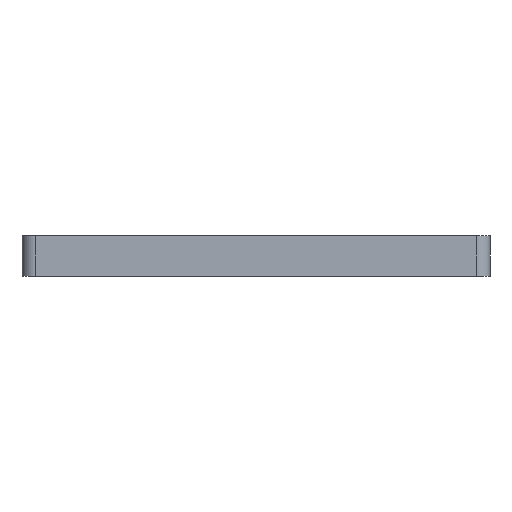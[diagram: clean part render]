
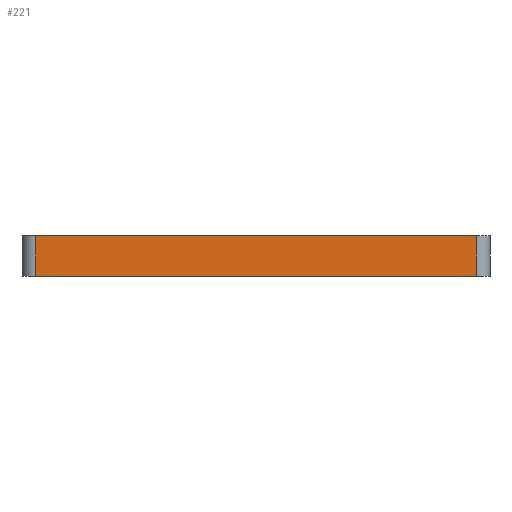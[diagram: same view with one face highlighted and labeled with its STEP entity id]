
A CAD part, front view. The second image highlights one B-rep face of the part: STEP entity #221.
In plain terms, the highlighted planar face has unit normal (0, -1, 0).
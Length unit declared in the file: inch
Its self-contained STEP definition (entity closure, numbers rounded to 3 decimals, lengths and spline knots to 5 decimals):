
#84 = DIRECTION ( 'NONE',  ( 1., 0., 0. ) ) ;
#87 = EDGE_CURVE ( 'NONE', #858, #622, #360, .T. ) ;
#90 = DIRECTION ( 'NONE',  ( 1., 0., 0. ) ) ;
#195 = DIRECTION ( 'NONE',  ( 0., 0., -1. ) ) ;
#221 = ADVANCED_FACE ( 'NONE', ( #1200 ), #618, .T. ) ;
#250 = CARTESIAN_POINT ( 'NONE',  ( -2.04, -1.75, 0.1875 ) ) ;
#269 = ORIENTED_EDGE ( 'NONE', *, *, #87, .T. ) ;
#280 = VECTOR ( 'NONE', #853, 39.37008 ) ;
#286 = VERTEX_POINT ( 'NONE', #250 ) ;
#306 = CARTESIAN_POINT ( 'NONE',  ( 2.04, -1.75, -0.1875 ) ) ;
#360 = LINE ( 'NONE', #1395, #1714 ) ;
#368 = CARTESIAN_POINT ( 'NONE',  ( -2.165, -1.75, 0.1875 ) ) ;
#446 = ORIENTED_EDGE ( 'NONE', *, *, #1822, .T. ) ;
#523 = AXIS2_PLACEMENT_3D ( 'NONE', #2103, #780, #90 ) ;
#561 = EDGE_CURVE ( 'NONE', #286, #622, #735, .T. ) ;
#604 = CARTESIAN_POINT ( 'NONE',  ( -2.04, -1.75, -0.1875 ) ) ;
#611 = CARTESIAN_POINT ( 'NONE',  ( -2.165, -1.75, -0.1875 ) ) ;
#618 = PLANE ( 'NONE',  #523 ) ;
#622 = VERTEX_POINT ( 'NONE', #1021 ) ;
#723 = VERTEX_POINT ( 'NONE', #604 ) ;
#735 = LINE ( 'NONE', #368, #280 ) ;
#780 = DIRECTION ( 'NONE',  ( 0., -1., 0. ) ) ;
#853 = DIRECTION ( 'NONE',  ( 1., 0., 0. ) ) ;
#858 = VERTEX_POINT ( 'NONE', #306 ) ;
#1021 = CARTESIAN_POINT ( 'NONE',  ( 2.04, -1.75, 0.1875 ) ) ;
#1080 = ORIENTED_EDGE ( 'NONE', *, *, #1167, .T. ) ;
#1152 = VECTOR ( 'NONE', #84, 39.37008 ) ;
#1167 = EDGE_CURVE ( 'NONE', #723, #858, #1945, .T. ) ;
#1200 = FACE_OUTER_BOUND ( 'NONE', #1588, .T. ) ;
#1395 = CARTESIAN_POINT ( 'NONE',  ( 2.04, -1.75, -0.1875 ) ) ;
#1410 = DIRECTION ( 'NONE',  ( 0., 0., 1. ) ) ;
#1551 = VECTOR ( 'NONE', #195, 39.37008 ) ;
#1558 = LINE ( 'NONE', #1914, #1551 ) ;
#1588 = EDGE_LOOP ( 'NONE', ( #1080, #269, #1769, #446 ) ) ;
#1714 = VECTOR ( 'NONE', #1410, 39.37008 ) ;
#1769 = ORIENTED_EDGE ( 'NONE', *, *, #561, .F. ) ;
#1822 = EDGE_CURVE ( 'NONE', #286, #723, #1558, .T. ) ;
#1914 = CARTESIAN_POINT ( 'NONE',  ( -2.04, -1.75, -0.1875 ) ) ;
#1945 = LINE ( 'NONE', #611, #1152 ) ;
#2103 = CARTESIAN_POINT ( 'NONE',  ( -2.165, -1.75, -0.1875 ) ) ;
